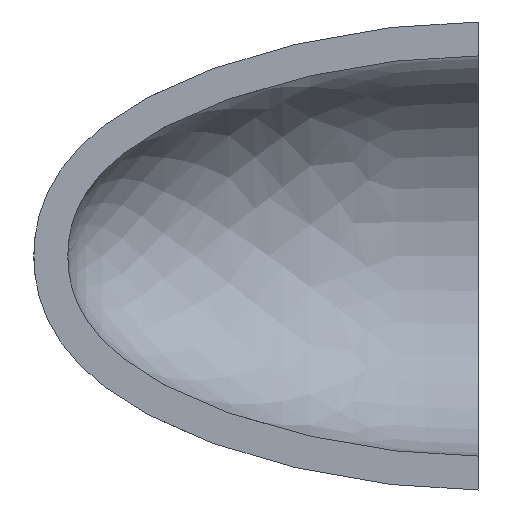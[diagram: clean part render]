
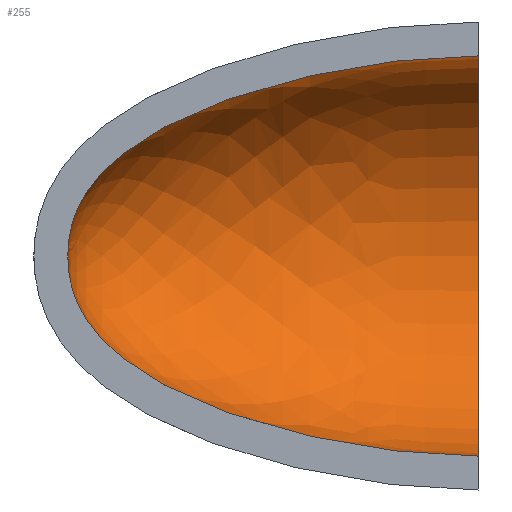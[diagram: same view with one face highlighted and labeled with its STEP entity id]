
A CAD part, left-side view. The second image highlights one B-rep face of the part: STEP entity #255.
In plain terms, the highlighted face is a revolution surface.
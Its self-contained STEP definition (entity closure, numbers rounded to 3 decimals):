
#100=CARTESIAN_POINT('Axis2P3D Location',(0.,0.,0.)) ;
#104=CARTESIAN_POINT('Vertex',(0.,0.,59.)) ;
#106=CARTESIAN_POINT('Vertex',(0.,0.,-59.)) ;
#132=CARTESIAN_POINT('Control Point',(0.,0.,-59.)) ;
#133=CARTESIAN_POINT('Control Point',(0.,2.181,-59.)) ;
#134=CARTESIAN_POINT('Control Point',(0.,4.387,-58.965)) ;
#135=CARTESIAN_POINT('Control Point',(0.,6.615,-58.895)) ;
#136=CARTESIAN_POINT('Control Point',(0.,12.544,-58.624)) ;
#137=CARTESIAN_POINT('Control Point',(0.,18.598,-58.129)) ;
#138=CARTESIAN_POINT('Control Point',(0.,22.396,-57.739)) ;
#139=CARTESIAN_POINT('Control Point',(0.,30.026,-56.801)) ;
#140=CARTESIAN_POINT('Control Point',(0.,37.729,-55.547)) ;
#141=CARTESIAN_POINT('Control Point',(0.,41.58,-54.845)) ;
#142=CARTESIAN_POINT('Control Point',(0.,49.289,-53.282)) ;
#143=CARTESIAN_POINT('Control Point',(0.,56.955,-51.399)) ;
#144=CARTESIAN_POINT('Control Point',(0.,60.772,-50.373)) ;
#145=CARTESIAN_POINT('Control Point',(0.,68.584,-48.08)) ;
#146=CARTESIAN_POINT('Control Point',(0.,76.199,-45.4)) ;
#147=CARTESIAN_POINT('Control Point',(0.,80.056,-43.91)) ;
#148=CARTESIAN_POINT('Control Point',(0.,86.296,-41.249)) ;
#149=CARTESIAN_POINT('Control Point',(0.,92.207,-38.247)) ;
#150=CARTESIAN_POINT('Control Point',(0.,94.49,-37.001)) ;
#151=CARTESIAN_POINT('Control Point',(0.,98.606,-34.576)) ;
#152=CARTESIAN_POINT('Control Point',(0.,102.435,-31.948)) ;
#153=CARTESIAN_POINT('Control Point',(0.,104.137,-30.688)) ;
#154=CARTESIAN_POINT('Control Point',(0.,107.213,-28.217)) ;
#155=CARTESIAN_POINT('Control Point',(0.,109.976,-25.592)) ;
#156=CARTESIAN_POINT('Control Point',(0.,111.204,-24.318)) ;
#157=CARTESIAN_POINT('Control Point',(0.,113.164,-22.086)) ;
#158=CARTESIAN_POINT('Control Point',(0.,114.87,-19.762)) ;
#159=CARTESIAN_POINT('Control Point',(0.,115.533,-18.782)) ;
#160=CARTESIAN_POINT('Control Point',(0.,116.754,-16.811)) ;
#161=CARTESIAN_POINT('Control Point',(0.,117.793,-14.778)) ;
#162=CARTESIAN_POINT('Control Point',(0.,118.261,-13.755)) ;
#163=CARTESIAN_POINT('Control Point',(0.,119.24,-11.352)) ;
#164=CARTESIAN_POINT('Control Point',(0.,119.974,-8.857)) ;
#165=CARTESIAN_POINT('Control Point',(0.,120.311,-7.408)) ;
#166=CARTESIAN_POINT('Control Point',(0.,120.715,-5.085)) ;
#167=CARTESIAN_POINT('Control Point',(0.,120.925,-2.677)) ;
#168=CARTESIAN_POINT('Control Point',(0.,120.975,-1.796)) ;
#169=CARTESIAN_POINT('Control Point',(0.,121.,-0.903)) ;
#170=CARTESIAN_POINT('Control Point',(0.,121.,0.)) ;
#171=CARTESIAN_POINT('Vertex',(0.,121.,0.)) ;
#175=CARTESIAN_POINT('Control Point',(0.,0.,59.)) ;
#176=CARTESIAN_POINT('Control Point',(0.,2.181,59.)) ;
#177=CARTESIAN_POINT('Control Point',(0.,4.387,58.965)) ;
#178=CARTESIAN_POINT('Control Point',(0.,6.615,58.895)) ;
#179=CARTESIAN_POINT('Control Point',(0.,12.544,58.624)) ;
#180=CARTESIAN_POINT('Control Point',(0.,18.598,58.129)) ;
#181=CARTESIAN_POINT('Control Point',(0.,22.396,57.739)) ;
#182=CARTESIAN_POINT('Control Point',(0.,30.026,56.801)) ;
#183=CARTESIAN_POINT('Control Point',(0.,37.729,55.547)) ;
#184=CARTESIAN_POINT('Control Point',(0.,41.58,54.845)) ;
#185=CARTESIAN_POINT('Control Point',(0.,49.289,53.282)) ;
#186=CARTESIAN_POINT('Control Point',(0.,56.955,51.399)) ;
#187=CARTESIAN_POINT('Control Point',(0.,60.772,50.373)) ;
#188=CARTESIAN_POINT('Control Point',(0.,68.584,48.08)) ;
#189=CARTESIAN_POINT('Control Point',(0.,76.199,45.4)) ;
#190=CARTESIAN_POINT('Control Point',(0.,80.056,43.91)) ;
#191=CARTESIAN_POINT('Control Point',(0.,86.296,41.249)) ;
#192=CARTESIAN_POINT('Control Point',(0.,92.207,38.247)) ;
#193=CARTESIAN_POINT('Control Point',(0.,94.49,37.001)) ;
#194=CARTESIAN_POINT('Control Point',(0.,98.606,34.576)) ;
#195=CARTESIAN_POINT('Control Point',(0.,102.435,31.948)) ;
#196=CARTESIAN_POINT('Control Point',(0.,104.137,30.688)) ;
#197=CARTESIAN_POINT('Control Point',(0.,107.213,28.217)) ;
#198=CARTESIAN_POINT('Control Point',(0.,109.976,25.592)) ;
#199=CARTESIAN_POINT('Control Point',(0.,111.204,24.318)) ;
#200=CARTESIAN_POINT('Control Point',(0.,113.164,22.086)) ;
#201=CARTESIAN_POINT('Control Point',(0.,114.87,19.762)) ;
#202=CARTESIAN_POINT('Control Point',(0.,115.533,18.782)) ;
#203=CARTESIAN_POINT('Control Point',(0.,116.754,16.811)) ;
#204=CARTESIAN_POINT('Control Point',(0.,117.793,14.778)) ;
#205=CARTESIAN_POINT('Control Point',(0.,118.261,13.755)) ;
#206=CARTESIAN_POINT('Control Point',(0.,119.24,11.352)) ;
#207=CARTESIAN_POINT('Control Point',(0.,119.974,8.857)) ;
#208=CARTESIAN_POINT('Control Point',(0.,120.311,7.408)) ;
#209=CARTESIAN_POINT('Control Point',(0.,120.715,5.085)) ;
#210=CARTESIAN_POINT('Control Point',(0.,120.925,2.677)) ;
#211=CARTESIAN_POINT('Control Point',(0.,120.975,1.796)) ;
#212=CARTESIAN_POINT('Control Point',(0.,121.,0.903)) ;
#213=CARTESIAN_POINT('Control Point',(0.,121.,0.)) ;
#225=CARTESIAN_POINT('Control Point',(0.,0.,59.)) ;
#226=CARTESIAN_POINT('Control Point',(0.,6.988,59.)) ;
#227=CARTESIAN_POINT('Control Point',(0.,14.451,58.637)) ;
#228=CARTESIAN_POINT('Control Point',(0.,22.377,57.902)) ;
#229=CARTESIAN_POINT('Control Point',(0.,38.878,55.665)) ;
#230=CARTESIAN_POINT('Control Point',(0.,55.935,51.86)) ;
#231=CARTESIAN_POINT('Control Point',(0.,64.416,49.557)) ;
#232=CARTESIAN_POINT('Control Point',(0.,76.696,45.488)) ;
#233=CARTESIAN_POINT('Control Point',(0.,87.756,40.542)) ;
#234=CARTESIAN_POINT('Control Point',(0.,91.276,38.798)) ;
#235=CARTESIAN_POINT('Control Point',(0.,97.921,35.131)) ;
#236=CARTESIAN_POINT('Control Point',(0.,103.671,31.137)) ;
#237=CARTESIAN_POINT('Control Point',(0.,106.295,29.066)) ;
#238=CARTESIAN_POINT('Control Point',(0.,111.005,24.803)) ;
#239=CARTESIAN_POINT('Control Point',(0.,114.62,20.326)) ;
#240=CARTESIAN_POINT('Control Point',(0.,116.148,18.042)) ;
#241=CARTESIAN_POINT('Control Point',(0.,118.681,13.372)) ;
#242=CARTESIAN_POINT('Control Point',(0.,120.207,8.369)) ;
#243=CARTESIAN_POINT('Control Point',(0.,120.729,5.752)) ;
#244=CARTESIAN_POINT('Control Point',(0.,121.,2.971)) ;
#245=CARTESIAN_POINT('Control Point',(0.,121.,0.)) ;
#246=CARTESIAN_POINT('Axis1P Location',(0.,0.,0.)) ;
#101=DIRECTION('Axis2P3D Direction',(0.,1.,0.)) ;
#247=DIRECTION('Axis1P Direction',(0.,1.,0.)) ;
#102=AXIS2_PLACEMENT_3D('Circle Axis2P3D',#100,#101,$) ;
#251=ORIENTED_EDGE('',*,*,#108,.F.) ;
#252=ORIENTED_EDGE('',*,*,#214,.T.) ;
#253=ORIENTED_EDGE('',*,*,#173,.F.) ;
#255=ADVANCED_FACE('PartBody',(#254),#249,.F.) ;
#248=AXIS1_PLACEMENT('Revolution Surface Axis1P',#246,#247) ;
#131=B_SPLINE_CURVE_WITH_KNOTS('',5,(#132,#133,#134,#135,#136,#137,#138,#139,#140,#141,#142,#143,#144,#145,#146,#147,#148,#149,#150,#151,#152,#153,#154,#155,#156,#157,#158,#159,#160,#161,#162,#163,#164,#165,#166,#167,#168,#169,#170),.UNSPECIFIED.,.F.,.U.,(6,3,3,3,3,3,3,3,3,3,3,3,6),(0.,15.887,41.891,67.765,93.704,121.305,139.439,155.039,168.995,178.887,188.596,201.343,208.557),.UNSPECIFIED.) ;
#174=B_SPLINE_CURVE_WITH_KNOTS('',5,(#175,#176,#177,#178,#179,#180,#181,#182,#183,#184,#185,#186,#187,#188,#189,#190,#191,#192,#193,#194,#195,#196,#197,#198,#199,#200,#201,#202,#203,#204,#205,#206,#207,#208,#209,#210,#211,#212,#213),.UNSPECIFIED.,.F.,.U.,(6,3,3,3,3,3,3,3,3,3,3,3,6),(0.,15.887,41.891,67.765,93.704,121.305,139.439,155.039,168.995,178.887,188.596,201.343,208.557),.UNSPECIFIED.) ;
#224=B_SPLINE_CURVE_WITH_KNOTS('',5,(#225,#226,#227,#228,#229,#230,#231,#232,#233,#234,#235,#236,#237,#238,#239,#240,#241,#242,#243,#244,#245),.UNSPECIFIED.,.F.,.U.,(6,3,3,3,3,3,6),(0.,37.015,74.03,92.538,111.046,129.553,148.061),.UNSPECIFIED.) ;
#103=CIRCLE('generated circle',#102,59.) ;
#108=EDGE_CURVE('',#105,#107,#103,.T.) ;
#173=EDGE_CURVE('',#107,#172,#131,.T.) ;
#214=EDGE_CURVE('',#105,#172,#174,.T.) ;
#250=EDGE_LOOP('',(#251,#252,#253)) ;
#254=FACE_OUTER_BOUND('',#250,.T.) ;
#249=SURFACE_OF_REVOLUTION('Surface of Revolution',#224,#248) ;
#105=VERTEX_POINT('',#104) ;
#107=VERTEX_POINT('',#106) ;
#172=VERTEX_POINT('',#171) ;
